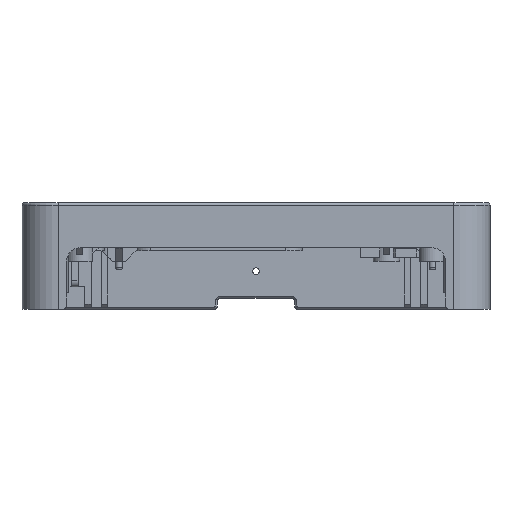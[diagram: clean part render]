
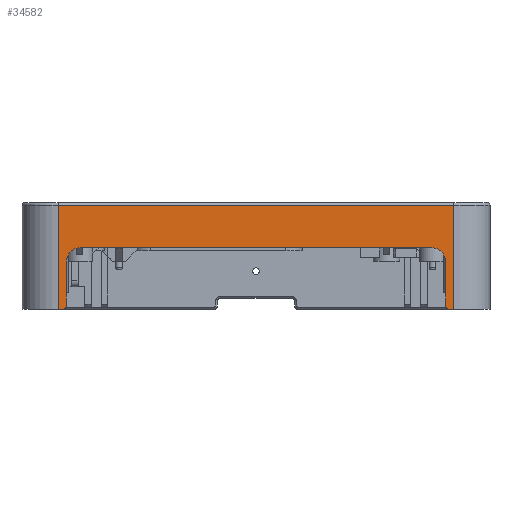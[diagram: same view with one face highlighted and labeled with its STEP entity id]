
A CAD part, front view. The second image highlights one B-rep face of the part: STEP entity #34582.
In plain terms, the highlighted planar face has unit normal (0, -1, 0).
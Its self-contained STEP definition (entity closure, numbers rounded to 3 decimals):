
#237 = EDGE_CURVE ( 'NONE', #16073, #10259, #31661, .T. ) ;
#270 = ORIENTED_EDGE ( 'NONE', *, *, #8418, .T. ) ;
#286 = DIRECTION ( 'NONE',  ( 0., 0., 1. ) ) ;
#584 = DIRECTION ( 'NONE',  ( -1., 0., 0. ) ) ;
#785 = DIRECTION ( 'NONE',  ( 1., 0., 0. ) ) ;
#1305 = VECTOR ( 'NONE', #27358, 1000. ) ;
#1388 = VERTEX_POINT ( 'NONE', #20195 ) ;
#1625 = DIRECTION ( 'NONE',  ( 0., -1., 0. ) ) ;
#2177 = ORIENTED_EDGE ( 'NONE', *, *, #7269, .T. ) ;
#3910 = VERTEX_POINT ( 'NONE', #29170 ) ;
#4089 = CARTESIAN_POINT ( 'NONE',  ( 26.5, -30.5, 8.9 ) ) ;
#4094 = ORIENTED_EDGE ( 'NONE', *, *, #7428, .F. ) ;
#4280 = PLANE ( 'NONE',  #16811 ) ;
#4288 = VECTOR ( 'NONE', #27449, 1000. ) ;
#4350 = LINE ( 'NONE', #22355, #29594 ) ;
#4655 = VECTOR ( 'NONE', #584, 1000. ) ;
#5655 = CIRCLE ( 'NONE', #7486, 2.3 ) ;
#5774 = ORIENTED_EDGE ( 'NONE', *, *, #24003, .T. ) ;
#6646 = CARTESIAN_POINT ( 'NONE',  ( -30., -30.5, 17.6 ) ) ;
#6830 = VECTOR ( 'NONE', #28091, 1000. ) ;
#7089 = CARTESIAN_POINT ( 'NONE',  ( -30., -30.5, 17.6 ) ) ;
#7269 = EDGE_CURVE ( 'NONE', #10259, #16281, #25437, .T. ) ;
#7428 = EDGE_CURVE ( 'NONE', #25822, #3910, #5655, .T. ) ;
#7486 = AXIS2_PLACEMENT_3D ( 'NONE', #14774, #34900, #17430 ) ;
#7494 = ORIENTED_EDGE ( 'NONE', *, *, #32321, .T. ) ;
#8055 = CARTESIAN_POINT ( 'NONE',  ( 28.8, -30.5, 8.9 ) ) ;
#8065 = LINE ( 'NONE', #19458, #25880 ) ;
#8418 = EDGE_CURVE ( 'NONE', #12424, #28708, #21921, .T. ) ;
#8510 = VERTEX_POINT ( 'NONE', #7089 ) ;
#9155 = ORIENTED_EDGE ( 'NONE', *, *, #23215, .T. ) ;
#9187 = AXIS2_PLACEMENT_3D ( 'NONE', #32895, #26264, #286 ) ;
#9664 = VERTEX_POINT ( 'NONE', #8055 ) ;
#10259 = VERTEX_POINT ( 'NONE', #34932 ) ;
#10305 = EDGE_LOOP ( 'NONE', ( #17675, #270, #15432, #4094, #33024, #16547, #13315, #27946, #2177, #5774, #7494, #9155 ) ) ;
#10530 = DIRECTION ( 'NONE',  ( 0., 0., 1. ) ) ;
#10640 = CARTESIAN_POINT ( 'NONE',  ( 30., -30.5, 17.6 ) ) ;
#10735 = CARTESIAN_POINT ( 'NONE',  ( -30., -30.5, 18. ) ) ;
#11576 = CARTESIAN_POINT ( 'NONE',  ( -26.5, -30.5, 11.2 ) ) ;
#11638 = VECTOR ( 'NONE', #785, 1000. ) ;
#12424 = VERTEX_POINT ( 'NONE', #25520 ) ;
#12702 = LINE ( 'NONE', #6646, #4655 ) ;
#13176 = DIRECTION ( 'NONE',  ( 0., 1., 0. ) ) ;
#13315 = ORIENTED_EDGE ( 'NONE', *, *, #33883, .F. ) ;
#13593 = AXIS2_PLACEMENT_3D ( 'NONE', #4089, #1625, #33494 ) ;
#14691 = AXIS2_PLACEMENT_3D ( 'NONE', #15298, #26886, #21186 ) ;
#14774 = CARTESIAN_POINT ( 'NONE',  ( -26.5, -30.5, 8.9 ) ) ;
#14981 = EDGE_CURVE ( 'NONE', #1388, #25822, #8065, .T. ) ;
#15298 = CARTESIAN_POINT ( 'NONE',  ( 29.3, -30.5, 2.3 ) ) ;
#15432 = ORIENTED_EDGE ( 'NONE', *, *, #21638, .T. ) ;
#15556 = VECTOR ( 'NONE', #17224, 1000. ) ;
#16073 = VERTEX_POINT ( 'NONE', #21538 ) ;
#16281 = VERTEX_POINT ( 'NONE', #16602 ) ;
#16547 = ORIENTED_EDGE ( 'NONE', *, *, #37238, .F. ) ;
#16602 = CARTESIAN_POINT ( 'NONE',  ( 30., -30.5, 1.8 ) ) ;
#16811 = AXIS2_PLACEMENT_3D ( 'NONE', #27416, #13176, #10530 ) ;
#17224 = DIRECTION ( 'NONE',  ( 0., 0., 1. ) ) ;
#17430 = DIRECTION ( 'NONE',  ( 0., 0., 1. ) ) ;
#17675 = ORIENTED_EDGE ( 'NONE', *, *, #28711, .T. ) ;
#19458 = CARTESIAN_POINT ( 'NONE',  ( 26.5, -30.5, 11.2 ) ) ;
#20195 = CARTESIAN_POINT ( 'NONE',  ( 26.5, -30.5, 11.2 ) ) ;
#21186 = DIRECTION ( 'NONE',  ( 0., 0., 1. ) ) ;
#21538 = CARTESIAN_POINT ( 'NONE',  ( 28.8, -30.5, 2.3 ) ) ;
#21638 = EDGE_CURVE ( 'NONE', #28708, #3910, #4350, .T. ) ;
#21921 = CIRCLE ( 'NONE', #9187, 0.5 ) ;
#22121 = LINE ( 'NONE', #10735, #4288 ) ;
#22355 = CARTESIAN_POINT ( 'NONE',  ( -28.8, -30.5, 2.1 ) ) ;
#23215 = EDGE_CURVE ( 'NONE', #8510, #27889, #22121, .T. ) ;
#24003 = EDGE_CURVE ( 'NONE', #16281, #24525, #27925, .T. ) ;
#24525 = VERTEX_POINT ( 'NONE', #10640 ) ;
#25016 = DIRECTION ( 'NONE',  ( 0., 0., 1. ) ) ;
#25437 = LINE ( 'NONE', #34175, #6830 ) ;
#25520 = CARTESIAN_POINT ( 'NONE',  ( -29.3, -30.5, 1.8 ) ) ;
#25822 = VERTEX_POINT ( 'NONE', #11576 ) ;
#25880 = VECTOR ( 'NONE', #34446, 1000. ) ;
#26093 = CARTESIAN_POINT ( 'NONE',  ( -30., -30.5, 1.8 ) ) ;
#26264 = DIRECTION ( 'NONE',  ( 0., -1., 0. ) ) ;
#26764 = CARTESIAN_POINT ( 'NONE',  ( -28.8, -30.5, 2.3 ) ) ;
#26886 = DIRECTION ( 'NONE',  ( 0., -1., 0. ) ) ;
#27333 = LINE ( 'NONE', #35680, #11638 ) ;
#27358 = DIRECTION ( 'NONE',  ( 0., 0., 1. ) ) ;
#27416 = CARTESIAN_POINT ( 'NONE',  ( 35.5, -30.5, 18. ) ) ;
#27449 = DIRECTION ( 'NONE',  ( 0., 0., -1. ) ) ;
#27889 = VERTEX_POINT ( 'NONE', #26093 ) ;
#27925 = LINE ( 'NONE', #33241, #1305 ) ;
#27946 = ORIENTED_EDGE ( 'NONE', *, *, #237, .T. ) ;
#28091 = DIRECTION ( 'NONE',  ( 1., 0., 0. ) ) ;
#28708 = VERTEX_POINT ( 'NONE', #26764 ) ;
#28711 = EDGE_CURVE ( 'NONE', #27889, #12424, #27333, .T. ) ;
#29170 = CARTESIAN_POINT ( 'NONE',  ( -28.8, -30.5, 8.9 ) ) ;
#29594 = VECTOR ( 'NONE', #25016, 1000. ) ;
#30265 = FACE_OUTER_BOUND ( 'NONE', #10305, .T. ) ;
#31661 = CIRCLE ( 'NONE', #14691, 0.5 ) ;
#31752 = CIRCLE ( 'NONE', #13593, 2.3 ) ;
#32321 = EDGE_CURVE ( 'NONE', #24525, #8510, #12702, .T. ) ;
#32895 = CARTESIAN_POINT ( 'NONE',  ( -29.3, -30.5, 2.3 ) ) ;
#33024 = ORIENTED_EDGE ( 'NONE', *, *, #14981, .F. ) ;
#33241 = CARTESIAN_POINT ( 'NONE',  ( 30., -30.5, 18. ) ) ;
#33494 = DIRECTION ( 'NONE',  ( 0., 0., 1. ) ) ;
#33883 = EDGE_CURVE ( 'NONE', #16073, #9664, #37154, .T. ) ;
#34175 = CARTESIAN_POINT ( 'NONE',  ( 28.8, -30.5, 1.8 ) ) ;
#34324 = CARTESIAN_POINT ( 'NONE',  ( 28.8, -30.5, 2.1 ) ) ;
#34446 = DIRECTION ( 'NONE',  ( -1., 0., 0. ) ) ;
#34582 = ADVANCED_FACE ( 'NONE', ( #30265 ), #4280, .F. ) ;
#34900 = DIRECTION ( 'NONE',  ( 0., -1., 0. ) ) ;
#34932 = CARTESIAN_POINT ( 'NONE',  ( 29.3, -30.5, 1.8 ) ) ;
#35680 = CARTESIAN_POINT ( 'NONE',  ( -30., -30.5, 1.8 ) ) ;
#37154 = LINE ( 'NONE', #34324, #15556 ) ;
#37238 = EDGE_CURVE ( 'NONE', #9664, #1388, #31752, .T. ) ;
